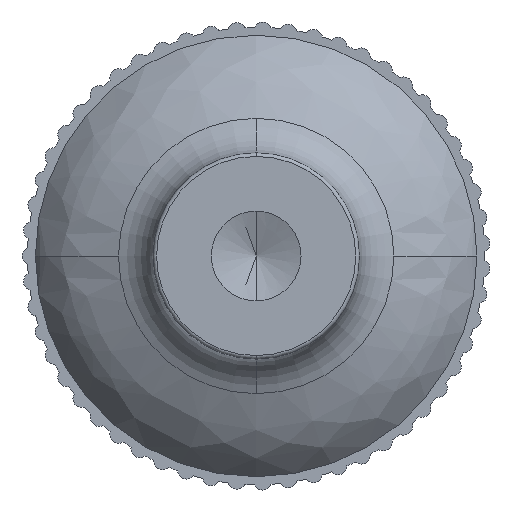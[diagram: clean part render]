
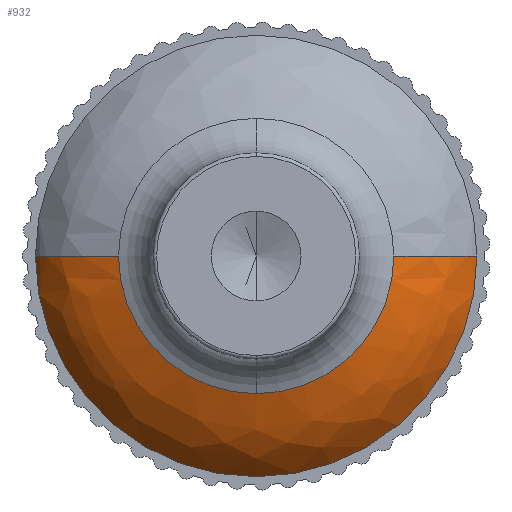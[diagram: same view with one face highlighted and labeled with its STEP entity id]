
A CAD part, front view. The second image highlights one B-rep face of the part: STEP entity #932.
In plain terms, the highlighted free-form (B-spline) face has degree [3, 3] with [4, 4] control points.
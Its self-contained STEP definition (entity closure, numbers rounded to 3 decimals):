
#931 = EDGE_CURVE ( 'NONE', #938, #937, #2717, .T. ) ;
#932 = ADVANCED_FACE ( 'NONE', ( #2744 ), #2776, .F. ) ;
#933 = ORIENTED_EDGE ( 'NONE', *, *, #934, .T. ) ;
#934 = EDGE_CURVE ( 'NONE', #958, #937, #2774, .T. ) ;
#936 = VERTEX_POINT ( 'NONE', #2799 ) ;
#937 = VERTEX_POINT ( 'NONE', #2798 ) ;
#938 = VERTEX_POINT ( 'NONE', #2796 ) ;
#939 = ORIENTED_EDGE ( 'NONE', *, *, #931, .F. ) ;
#943 = EDGE_CURVE ( 'NONE', #1007, #936, #2789, .T. ) ;
#952 = ORIENTED_EDGE ( 'NONE', *, *, #1008, .F. ) ;
#955 = ORIENTED_EDGE ( 'NONE', *, *, #943, .T. ) ;
#958 = VERTEX_POINT ( 'NONE', #2828 ) ;
#959 = EDGE_CURVE ( 'NONE', #936, #958, #2826, .T. ) ;
#1000 = EDGE_LOOP ( 'NONE', ( #1002, #933, #939, #952, #955 ) ) ;
#1002 = ORIENTED_EDGE ( 'NONE', *, *, #959, .T. ) ;
#1007 = VERTEX_POINT ( 'NONE', #2927 ) ;
#1008 = EDGE_CURVE ( 'NONE', #1007, #938, #2944, .T. ) ;
#1298 = CARTESIAN_POINT ( 'NONE',  ( 12.306, 7.8, -24.612 ) ) ;
#1299 = CARTESIAN_POINT ( 'NONE',  ( 12.306, 7.8, 0. ) ) ;
#2044 = CARTESIAN_POINT ( 'NONE',  ( -12.306, 7.8, -24.612 ) ) ;
#2046 = CARTESIAN_POINT ( 'NONE',  ( -12.306, 7.8, 0. ) ) ;
#2530 = CARTESIAN_POINT ( 'NONE',  ( -12.306, 7.8, 0. ) ) ;
#2531 = CARTESIAN_POINT ( 'NONE',  ( -11.559, 6.393, 0. ) ) ;
#2532 = CARTESIAN_POINT ( 'NONE',  ( -9.957, 5.186, 0. ) ) ;
#2539 = CARTESIAN_POINT ( 'NONE',  ( -7.674, 4.309, 0. ) ) ;
#2717 = CIRCLE ( 'NONE', #2725, 12.306 ) ;
#2725 = AXIS2_PLACEMENT_3D ( 'NONE', #2754, #2746, #2745 ) ;
#2744 = FACE_OUTER_BOUND ( 'NONE', #1000, .T. ) ;
#2745 = DIRECTION ( 'NONE',  ( 0., 0., 1. ) ) ;
#2746 = DIRECTION ( 'NONE',  ( 0., 1., 0. ) ) ;
#2754 = CARTESIAN_POINT ( 'NONE',  ( 0., 7.8, 0. ) ) ;
#2759 = CARTESIAN_POINT ( 'NONE',  ( -11.559, 6.393, 0. ) ) ;
#2760 = CARTESIAN_POINT ( 'NONE',  ( -11.559, 6.393, -23.117 ) ) ;
#2761 = CARTESIAN_POINT ( 'NONE',  ( 11.559, 6.393, -23.117 ) ) ;
#2762 = CARTESIAN_POINT ( 'NONE',  ( 11.559, 6.393, 0. ) ) ;
#2763 = CARTESIAN_POINT ( 'NONE',  ( -9.957, 5.186, 0. ) ) ;
#2764 = CARTESIAN_POINT ( 'NONE',  ( -9.957, 5.186, -19.914 ) ) ;
#2765 = CARTESIAN_POINT ( 'NONE',  ( 9.957, 5.186, -19.914 ) ) ;
#2766 = CARTESIAN_POINT ( 'NONE',  ( 9.957, 5.186, 0. ) ) ;
#2767 = CARTESIAN_POINT ( 'NONE',  ( -7.674, 4.309, 0. ) ) ;
#2768 = CARTESIAN_POINT ( 'NONE',  ( -7.674, 4.309, -15.348 ) ) ;
#2769 = CARTESIAN_POINT ( 'NONE',  ( 7.674, 4.309, -15.348 ) ) ;
#2770 = CARTESIAN_POINT ( 'NONE',  ( 7.674, 4.309, 0. ) ) ;
#2774 =( BOUNDED_CURVE ( )  B_SPLINE_CURVE ( 3, ( #2539, #2532, #2531, #2530 ),
 .UNSPECIFIED., .F., .T. ) 
 B_SPLINE_CURVE_WITH_KNOTS ( ( 4, 4 ),
 ( 5.358, 6.019 ),
 .UNSPECIFIED. ) 
 CURVE ( )  GEOMETRIC_REPRESENTATION_ITEM ( )  RATIONAL_B_SPLINE_CURVE ( ( 1., 0.964, 0.964, 1. ) ) 
 REPRESENTATION_ITEM ( '' )  );
#2776 =( BOUNDED_SURFACE ( )  B_SPLINE_SURFACE ( 3, 3, ( 
 ( #2770, #2769, #2768, #2767 ),
 ( #2766, #2765, #2764, #2763 ),
 ( #2762, #2761, #2760, #2759 ),
 ( #1299, #1298, #2044, #2046 ) ),
 .UNSPECIFIED., .F., .F., .F. ) 
 B_SPLINE_SURFACE_WITH_KNOTS ( ( 4, 4 ),
 ( 4, 4 ),
 ( 0., 1. ),
 ( 0., 1. ),
 .UNSPECIFIED. ) 
 GEOMETRIC_REPRESENTATION_ITEM ( )  RATIONAL_B_SPLINE_SURFACE ( (
 ( 1., 0.333, 0.333, 1.),
 ( 0.964, 0.321, 0.321, 0.964),
 ( 0.964, 0.321, 0.321, 0.964),
 ( 1., 0.333, 0.333, 1.) ) ) 
 REPRESENTATION_ITEM ( '' )  SURFACE ( )  );
#2779 = DIRECTION ( 'NONE',  ( 0., 0., 1. ) ) ;
#2786 = DIRECTION ( 'NONE',  ( 0., 1., 0. ) ) ;
#2789 = CIRCLE ( 'NONE', #2795, 7.674 ) ;
#2790 = CARTESIAN_POINT ( 'NONE',  ( 0., 4.309, 0. ) ) ;
#2795 = AXIS2_PLACEMENT_3D ( 'NONE', #2790, #2786, #2779 ) ;
#2796 = CARTESIAN_POINT ( 'NONE',  ( 12.306, 7.8, 0. ) ) ;
#2798 = CARTESIAN_POINT ( 'NONE',  ( -12.306, 7.8, 0. ) ) ;
#2799 = CARTESIAN_POINT ( 'NONE',  ( 0., 4.309, -7.674 ) ) ;
#2802 = DIRECTION ( 'NONE',  ( 0., 1., 0. ) ) ;
#2803 = AXIS2_PLACEMENT_3D ( 'NONE', #2808, #2802, #2859 ) ;
#2808 = CARTESIAN_POINT ( 'NONE',  ( 0., 4.309, 0. ) ) ;
#2826 = CIRCLE ( 'NONE', #2803, 7.674 ) ;
#2828 = CARTESIAN_POINT ( 'NONE',  ( -7.674, 4.309, 0. ) ) ;
#2859 = DIRECTION ( 'NONE',  ( 0., 0., 1. ) ) ;
#2927 = CARTESIAN_POINT ( 'NONE',  ( 7.674, 4.309, 0. ) ) ;
#2939 = CARTESIAN_POINT ( 'NONE',  ( 12.306, 7.8, 0. ) ) ;
#2940 = CARTESIAN_POINT ( 'NONE',  ( 11.559, 6.393, 0. ) ) ;
#2941 = CARTESIAN_POINT ( 'NONE',  ( 9.957, 5.186, 0. ) ) ;
#2942 = CARTESIAN_POINT ( 'NONE',  ( 7.674, 4.309, 0. ) ) ;
#2944 =( BOUNDED_CURVE ( )  B_SPLINE_CURVE ( 3, ( #2942, #2941, #2940, #2939 ),
 .UNSPECIFIED., .F., .F. ) 
 B_SPLINE_CURVE_WITH_KNOTS ( ( 4, 4 ),
 ( 5.358, 6.019 ),
 .UNSPECIFIED. ) 
 CURVE ( )  GEOMETRIC_REPRESENTATION_ITEM ( )  RATIONAL_B_SPLINE_CURVE ( ( 1., 0.964, 0.964, 1. ) ) 
 REPRESENTATION_ITEM ( '' )  );
